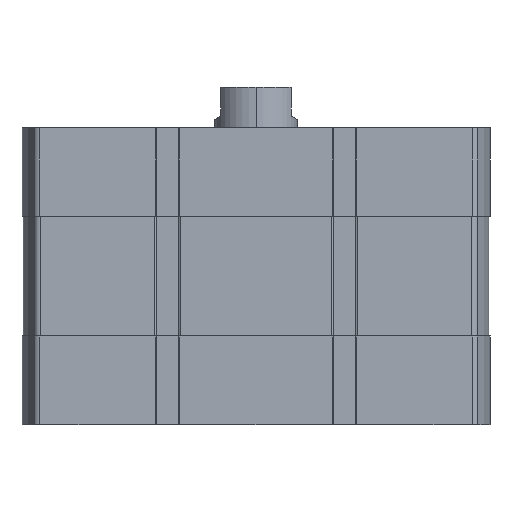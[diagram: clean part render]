
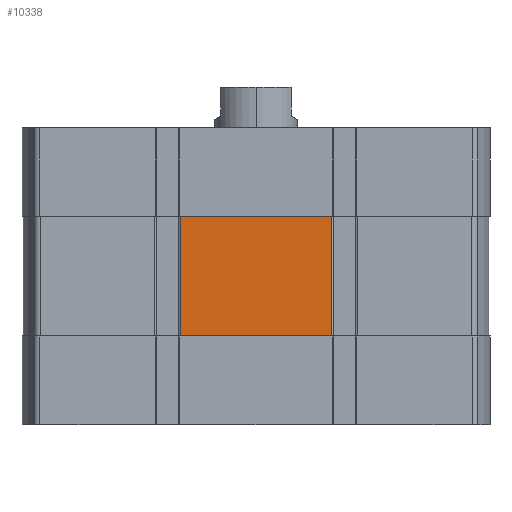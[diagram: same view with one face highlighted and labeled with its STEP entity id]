
A CAD part, left-side view. The second image highlights one B-rep face of the part: STEP entity #10338.
In plain terms, the highlighted planar face has unit normal (-1, 0, 0).
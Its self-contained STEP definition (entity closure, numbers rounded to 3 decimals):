
#94 = VECTOR ( 'NONE', #16114, 1000. ) ;
#229 = CARTESIAN_POINT ( 'NONE',  ( -56.5, -18.345, -50.5 ) ) ;
#729 = ORIENTED_EDGE ( 'NONE', *, *, #2382, .F. ) ;
#1698 = DIRECTION ( 'NONE',  ( -1., 0., 0. ) ) ;
#2382 = EDGE_CURVE ( 'NONE', #14502, #5712, #5122, .T. ) ;
#3802 = EDGE_CURVE ( 'NONE', #12977, #5712, #18973, .T. ) ;
#5012 = CARTESIAN_POINT ( 'NONE',  ( -56.5, 18.345, -21.5 ) ) ;
#5122 = LINE ( 'NONE', #5012, #94 ) ;
#5187 = DIRECTION ( 'NONE',  ( 0., 0., 1. ) ) ;
#5712 = VERTEX_POINT ( 'NONE', #11546 ) ;
#5900 = VECTOR ( 'NONE', #13856, 1000. ) ;
#6436 = DIRECTION ( 'NONE',  ( 0., 0., 1. ) ) ;
#6986 = CARTESIAN_POINT ( 'NONE',  ( -56.5, 18.345, -50.5 ) ) ;
#8161 = PLANE ( 'NONE',  #9354 ) ;
#8259 = CARTESIAN_POINT ( 'NONE',  ( -56.5, 18.345, -50.5 ) ) ;
#8499 = VECTOR ( 'NONE', #6436, 1000. ) ;
#8649 = ORIENTED_EDGE ( 'NONE', *, *, #3802, .T. ) ;
#8910 = CARTESIAN_POINT ( 'NONE',  ( -56.5, 18.345, -50.5 ) ) ;
#9354 = AXIS2_PLACEMENT_3D ( 'NONE', #8259, #1698, #5187 ) ;
#9618 = EDGE_LOOP ( 'NONE', ( #729, #20166, #9926, #8649 ) ) ;
#9926 = ORIENTED_EDGE ( 'NONE', *, *, #15035, .T. ) ;
#10338 = ADVANCED_FACE ( 'NONE', ( #15763 ), #8161, .T. ) ;
#11058 = CARTESIAN_POINT ( 'NONE',  ( -56.5, -18.345, -50.5 ) ) ;
#11546 = CARTESIAN_POINT ( 'NONE',  ( -56.5, -18.345, -21.5 ) ) ;
#12977 = VERTEX_POINT ( 'NONE', #229 ) ;
#13340 = DIRECTION ( 'NONE',  ( 0., 0., 1. ) ) ;
#13355 = VECTOR ( 'NONE', #13340, 1000. ) ;
#13856 = DIRECTION ( 'NONE',  ( 0., -1., 0. ) ) ;
#14502 = VERTEX_POINT ( 'NONE', #18729 ) ;
#15035 = EDGE_CURVE ( 'NONE', #18055, #12977, #20248, .T. ) ;
#15763 = FACE_OUTER_BOUND ( 'NONE', #9618, .T. ) ;
#16114 = DIRECTION ( 'NONE',  ( 0., -1., 0. ) ) ;
#16449 = EDGE_CURVE ( 'NONE', #18055, #14502, #16747, .T. ) ;
#16747 = LINE ( 'NONE', #6986, #13355 ) ;
#17163 = CARTESIAN_POINT ( 'NONE',  ( -56.5, 18.345, -50.5 ) ) ;
#18055 = VERTEX_POINT ( 'NONE', #8910 ) ;
#18729 = CARTESIAN_POINT ( 'NONE',  ( -56.5, 18.345, -21.5 ) ) ;
#18973 = LINE ( 'NONE', #11058, #8499 ) ;
#20166 = ORIENTED_EDGE ( 'NONE', *, *, #16449, .F. ) ;
#20248 = LINE ( 'NONE', #17163, #5900 ) ;
